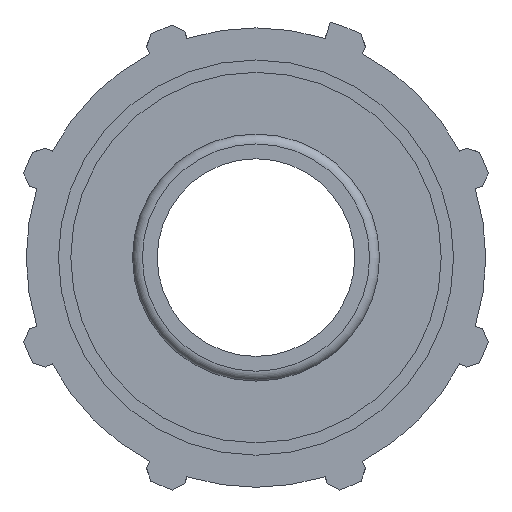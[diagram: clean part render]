
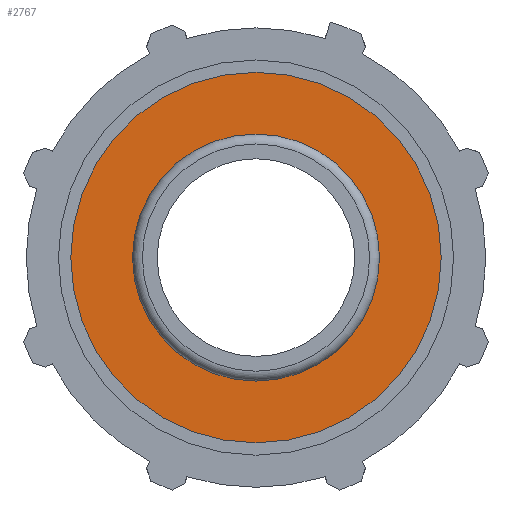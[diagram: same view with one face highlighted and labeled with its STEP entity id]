
A CAD part, left-side view. The second image highlights one B-rep face of the part: STEP entity #2767.
In plain terms, the highlighted planar face has unit normal (-1, 0, 0).
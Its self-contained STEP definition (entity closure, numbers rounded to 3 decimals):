
#585=PLANE('',#3074);
#611=FACE_BOUND('',#944,.T.);
#765=FACE_OUTER_BOUND('',#943,.T.);
#943=EDGE_LOOP('',(#2587));
#944=EDGE_LOOP('',(#2588));
#958=CIRCLE('',#2786,16.);
#1102=CIRCLE('',#3075,24.);
#1112=VERTEX_POINT('',#3910);
#1380=VERTEX_POINT('',#4863);
#1390=EDGE_CURVE('',#1112,#1112,#958,.T.);
#1784=EDGE_CURVE('',#1380,#1380,#1102,.T.);
#2587=ORIENTED_EDGE('',*,*,#1784,.F.);
#2588=ORIENTED_EDGE('',*,*,#1390,.T.);
#2767=ADVANCED_FACE('',(#765,#611),#585,.T.);
#2786=AXIS2_PLACEMENT_3D('',#3911,#3109,#3110);
#3074=AXIS2_PLACEMENT_3D('',#4862,#3875,#3876);
#3075=AXIS2_PLACEMENT_3D('',#4864,#3877,#3878);
#3109=DIRECTION('center_axis',(1.,0.,0.));
#3110=DIRECTION('ref_axis',(0.,0.,-1.));
#3875=DIRECTION('center_axis',(-1.,0.,0.));
#3876=DIRECTION('ref_axis',(0.,0.,1.));
#3877=DIRECTION('center_axis',(1.,0.,0.));
#3878=DIRECTION('ref_axis',(0.,0.,-1.));
#3910=CARTESIAN_POINT('',(-18.6,16.,0.));
#3911=CARTESIAN_POINT('Origin',(-18.6,0.,0.));
#4862=CARTESIAN_POINT('Origin',(-18.6,24.,0.));
#4863=CARTESIAN_POINT('',(-18.6,24.,0.));
#4864=CARTESIAN_POINT('Origin',(-18.6,0.,0.));
